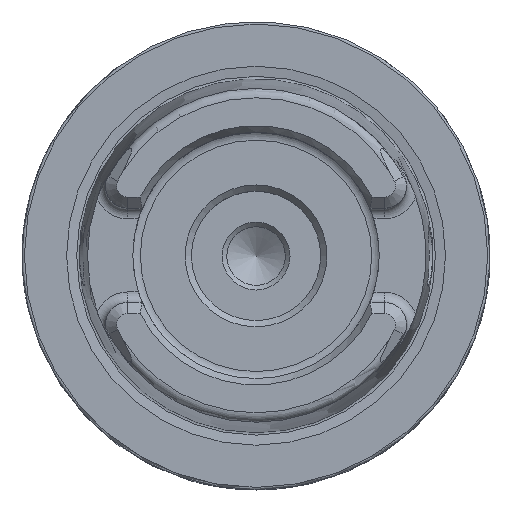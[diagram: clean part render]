
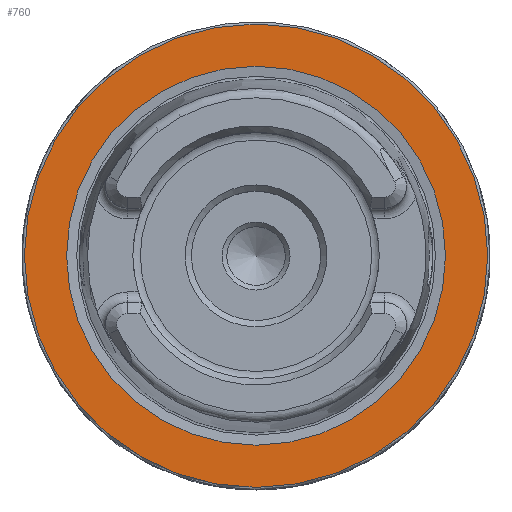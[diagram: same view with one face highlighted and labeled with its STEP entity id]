
A CAD part, top view. The second image highlights one B-rep face of the part: STEP entity #760.
In plain terms, the highlighted planar face has unit normal (0, 0, 1).
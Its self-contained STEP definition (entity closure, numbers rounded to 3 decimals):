
#408=PLANE('',#3387);
#760=ADVANCED_FACE('',(#1081,#1082),#408,.T.);
#978=CIRCLE('',#3383,16.171);
#980=CIRCLE('',#3386,19.775);
#1081=FACE_BOUND('',#1282,.T.);
#1082=FACE_BOUND('',#1283,.T.);
#1282=EDGE_LOOP('',(#1933));
#1283=EDGE_LOOP('',(#1934));
#1933=ORIENTED_EDGE('',*,*,#2872,.F.);
#1934=ORIENTED_EDGE('',*,*,#2874,.T.);
#2477=VERTEX_POINT('',#6695);
#2479=VERTEX_POINT('',#6700);
#2872=EDGE_CURVE('',#2477,#2477,#978,.T.);
#2874=EDGE_CURVE('',#2479,#2479,#980,.T.);
#3383=AXIS2_PLACEMENT_3D('',#6694,#4019,#4020);
#3386=AXIS2_PLACEMENT_3D('',#6699,#4025,#4026);
#3387=AXIS2_PLACEMENT_3D('',#6701,#4027,#4028);
#4019=DIRECTION('',(0.,0.,1.));
#4020=DIRECTION('',(0.,-1.,0.));
#4025=DIRECTION('',(0.,0.,1.));
#4026=DIRECTION('',(0.,-1.,0.));
#4027=DIRECTION('',(0.,0.,1.));
#4028=DIRECTION('',(0.,-1.,0.));
#6694=CARTESIAN_POINT('',(0.,0.,0.));
#6695=CARTESIAN_POINT('',(0.,-16.171,0.));
#6699=CARTESIAN_POINT('',(0.,0.,0.));
#6700=CARTESIAN_POINT('',(0.,-19.775,0.));
#6701=CARTESIAN_POINT('',(0.,0.,0.));
